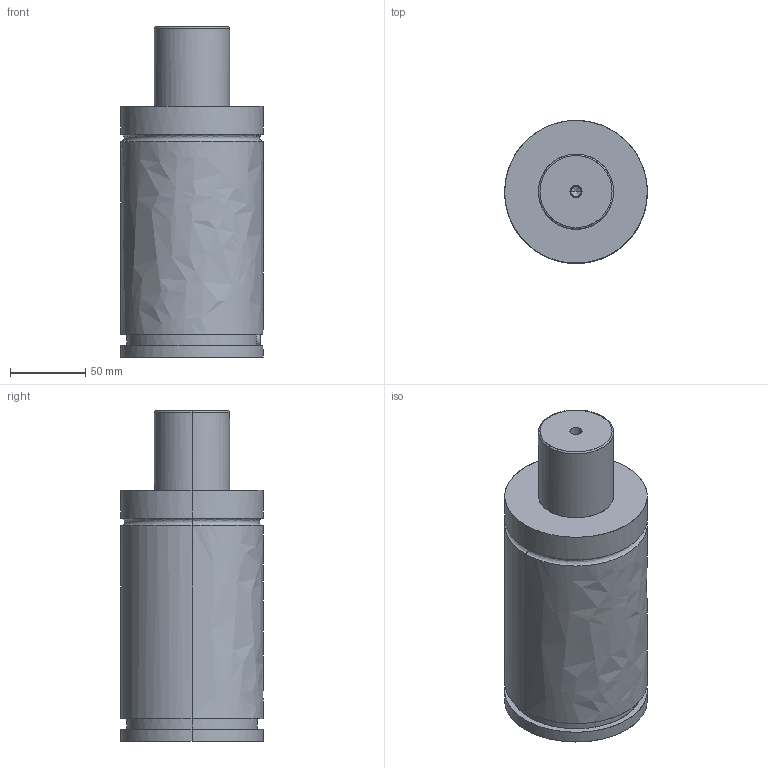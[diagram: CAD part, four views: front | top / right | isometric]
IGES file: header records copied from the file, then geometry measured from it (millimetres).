
Global section: file name: E:\UnigraphicsGraphicData\MISUMI_PRESS-PARTS\IGES\3d_gse95-50_03861_r00.igs; native system: NX V5.0; preprocessor: UGS NX IGES V5.0; author: MISUMI; date: 20110105.160804; units: millimetre
Bounding box: 95 x 95 x 220 mm (x, y, z)
Surface area: 77638.5 mm2 (no closed solid volume)
Topology: 0 solids, 0 shells, 75 faces, 604 edges, 602 vertices
Faces by surface type: bspline 75
